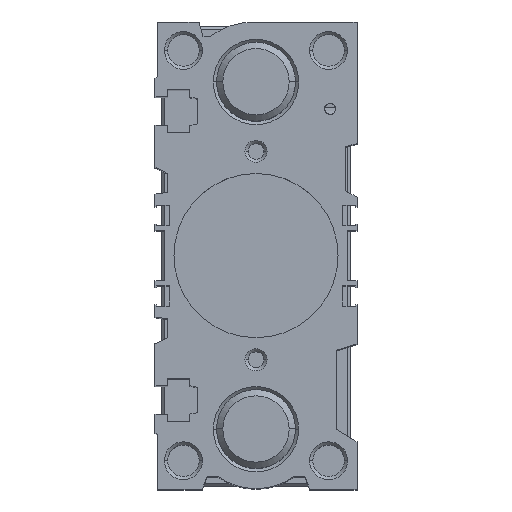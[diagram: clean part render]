
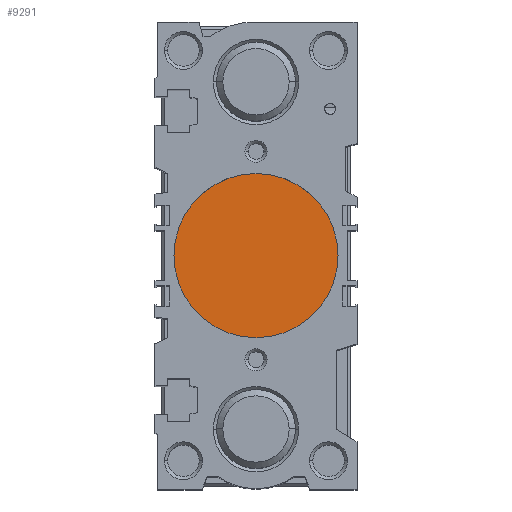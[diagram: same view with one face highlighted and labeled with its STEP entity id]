
A CAD part, top view. The second image highlights one B-rep face of the part: STEP entity #9291.
In plain terms, the highlighted planar face has unit normal (0, 0, 1).
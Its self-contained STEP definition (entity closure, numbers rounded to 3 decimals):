
#508 = CIRCLE ( 'NONE', #5718, 26. ) ;
#652 = CARTESIAN_POINT ( 'NONE',  ( 0., 0., 140. ) ) ;
#797 = DIRECTION ( 'NONE',  ( 0., 0., 1. ) ) ;
#1404 = CIRCLE ( 'NONE', #5860, 26. ) ;
#1656 = EDGE_CURVE ( 'NONE', #2616, #6942, #1404, .T. ) ;
#1711 = ORIENTED_EDGE ( 'NONE', *, *, #1656, .T. ) ;
#2353 = AXIS2_PLACEMENT_3D ( 'NONE', #652, #10663, #5679 ) ;
#2616 = VERTEX_POINT ( 'NONE', #8483 ) ;
#2687 = EDGE_LOOP ( 'NONE', ( #1711, #5247 ) ) ;
#4118 = CARTESIAN_POINT ( 'NONE',  ( 0., 0., 140. ) ) ;
#4946 = DIRECTION ( 'NONE',  ( 1., 0., 0. ) ) ;
#5247 = ORIENTED_EDGE ( 'NONE', *, *, #9355, .T. ) ;
#5644 = PLANE ( 'NONE',  #2353 ) ;
#5679 = DIRECTION ( 'NONE',  ( 1., 0., 0. ) ) ;
#5718 = AXIS2_PLACEMENT_3D ( 'NONE', #5786, #797, #6617 ) ;
#5786 = CARTESIAN_POINT ( 'NONE',  ( 0., 0., 140. ) ) ;
#5860 = AXIS2_PLACEMENT_3D ( 'NONE', #4118, #9929, #4946 ) ;
#6617 = DIRECTION ( 'NONE',  ( 1., 0., 0. ) ) ;
#6942 = VERTEX_POINT ( 'NONE', #8651 ) ;
#8483 = CARTESIAN_POINT ( 'NONE',  ( 26., 0., 140. ) ) ;
#8651 = CARTESIAN_POINT ( 'NONE',  ( -26., 0., 140. ) ) ;
#9291 = ADVANCED_FACE ( 'NONE', ( #9642 ), #5644, .T. ) ;
#9355 = EDGE_CURVE ( 'NONE', #6942, #2616, #508, .T. ) ;
#9642 = FACE_OUTER_BOUND ( 'NONE', #2687, .T. ) ;
#9929 = DIRECTION ( 'NONE',  ( 0., 0., 1. ) ) ;
#10663 = DIRECTION ( 'NONE',  ( 0., 0., 1. ) ) ;
